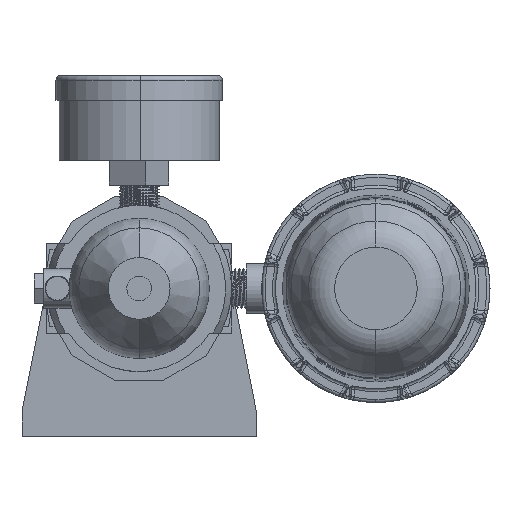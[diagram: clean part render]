
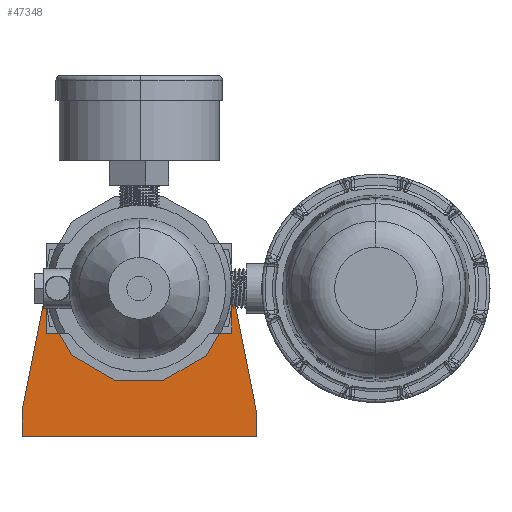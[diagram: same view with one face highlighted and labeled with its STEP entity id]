
A CAD part, front view. The second image highlights one B-rep face of the part: STEP entity #47348.
In plain terms, the highlighted planar face has unit normal (0, -1, 0).
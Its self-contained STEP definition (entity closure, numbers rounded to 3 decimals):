
#538 = DIRECTION ( 'NONE',  ( 0., 1., 0. ) ) ;
#759 = LINE ( 'NONE', #4408, #44675 ) ;
#1143 = EDGE_CURVE ( 'NONE', #7874, #2587, #49974, .T. ) ;
#1315 = ORIENTED_EDGE ( 'NONE', *, *, #35735, .F. ) ;
#2587 = VERTEX_POINT ( 'NONE', #17000 ) ;
#4023 = VECTOR ( 'NONE', #15698, 1000. ) ;
#4375 = CARTESIAN_POINT ( 'NONE',  ( -38., 0., -40. ) ) ;
#4408 = CARTESIAN_POINT ( 'NONE',  ( 38., 0., -48. ) ) ;
#5560 = AXIS2_PLACEMENT_3D ( 'NONE', #50813, #26410, #26059 ) ;
#5564 = CARTESIAN_POINT ( 'NONE',  ( 0., 0., 0. ) ) ;
#6962 = VECTOR ( 'NONE', #31876, 1000. ) ;
#7604 = LINE ( 'NONE', #41528, #33005 ) ;
#7734 = CARTESIAN_POINT ( 'NONE',  ( -38., 0., -48. ) ) ;
#7859 = EDGE_CURVE ( 'NONE', #2587, #7874, #30676, .T. ) ;
#7874 = VERTEX_POINT ( 'NONE', #42120 ) ;
#8087 = VERTEX_POINT ( 'NONE', #41889 ) ;
#8159 = CIRCLE ( 'NONE', #42162, 29.5 ) ;
#8363 = ORIENTED_EDGE ( 'NONE', *, *, #29868, .F. ) ;
#8457 = EDGE_CURVE ( 'NONE', #47805, #20812, #40269, .T. ) ;
#9194 = ORIENTED_EDGE ( 'NONE', *, *, #7859, .T. ) ;
#10584 = FACE_BOUND ( 'NONE', #47278, .T. ) ;
#11718 = AXIS2_PLACEMENT_3D ( 'NONE', #5564, #47178, #14751 ) ;
#12062 = DIRECTION ( 'NONE',  ( 0., 0., -1. ) ) ;
#12957 = DIRECTION ( 'NONE',  ( 0., 0., 1. ) ) ;
#13078 = VERTEX_POINT ( 'NONE', #37005 ) ;
#13630 = CARTESIAN_POINT ( 'NONE',  ( -28.937, 0., 5.734 ) ) ;
#14751 = DIRECTION ( 'NONE',  ( 0., 0., 1. ) ) ;
#15698 = DIRECTION ( 'NONE',  ( -1., 0., 0. ) ) ;
#15699 = ORIENTED_EDGE ( 'NONE', *, *, #38976, .F. ) ;
#16486 = AXIS2_PLACEMENT_3D ( 'NONE', #43720, #35529, #19324 ) ;
#17000 = CARTESIAN_POINT ( 'NONE',  ( 0., 0., 24. ) ) ;
#18356 = EDGE_CURVE ( 'NONE', #38630, #49651, #7604, .T. ) ;
#19324 = DIRECTION ( 'NONE',  ( 0., 0., 1. ) ) ;
#20812 = VERTEX_POINT ( 'NONE', #52274 ) ;
#21121 = ORIENTED_EDGE ( 'NONE', *, *, #1143, .T. ) ;
#22049 = CARTESIAN_POINT ( 'NONE',  ( -38., 0., -48. ) ) ;
#24941 = CARTESIAN_POINT ( 'NONE',  ( 38., 0., -48. ) ) ;
#25778 = PLANE ( 'NONE',  #11718 ) ;
#26059 = DIRECTION ( 'NONE',  ( 0., 0., 1. ) ) ;
#26410 = DIRECTION ( 'NONE',  ( 0., 1., 0. ) ) ;
#27711 = ORIENTED_EDGE ( 'NONE', *, *, #40164, .F. ) ;
#29274 = CARTESIAN_POINT ( 'NONE',  ( 0., 0., 0. ) ) ;
#29868 = EDGE_CURVE ( 'NONE', #49651, #13078, #8159, .T. ) ;
#30056 = EDGE_LOOP ( 'NONE', ( #36701, #15699, #30356, #1315, #27711, #8363 ) ) ;
#30356 = ORIENTED_EDGE ( 'NONE', *, *, #8457, .F. ) ;
#30402 = DIRECTION ( 'NONE',  ( 0., 0., 1. ) ) ;
#30676 = CIRCLE ( 'NONE', #5560, 24. ) ;
#31876 = DIRECTION ( 'NONE',  ( 0.194, 0., -0.981 ) ) ;
#33005 = VECTOR ( 'NONE', #33146, 1000. ) ;
#33146 = DIRECTION ( 'NONE',  ( 0.194, 0., 0.981 ) ) ;
#33713 = VECTOR ( 'NONE', #30402, 1000. ) ;
#35529 = DIRECTION ( 'NONE',  ( 0., 1., 0. ) ) ;
#35735 = EDGE_CURVE ( 'NONE', #8087, #47805, #759, .T. ) ;
#36701 = ORIENTED_EDGE ( 'NONE', *, *, #18356, .F. ) ;
#37005 = CARTESIAN_POINT ( 'NONE',  ( 28.937, 0., 5.734 ) ) ;
#38630 = VERTEX_POINT ( 'NONE', #4375 ) ;
#38976 = EDGE_CURVE ( 'NONE', #20812, #38630, #48422, .T. ) ;
#40164 = EDGE_CURVE ( 'NONE', #13078, #8087, #43864, .T. ) ;
#40269 = LINE ( 'NONE', #7734, #4023 ) ;
#41528 = CARTESIAN_POINT ( 'NONE',  ( -38., 0., -40. ) ) ;
#41889 = CARTESIAN_POINT ( 'NONE',  ( 38., 0., -40. ) ) ;
#42120 = CARTESIAN_POINT ( 'NONE',  ( 0., 0., -24. ) ) ;
#42162 = AXIS2_PLACEMENT_3D ( 'NONE', #29274, #538, #12957 ) ;
#43720 = CARTESIAN_POINT ( 'NONE',  ( 0., 0., 0. ) ) ;
#43864 = LINE ( 'NONE', #48127, #6962 ) ;
#44675 = VECTOR ( 'NONE', #12062, 1000. ) ;
#47178 = DIRECTION ( 'NONE',  ( 0., 1., 0. ) ) ;
#47278 = EDGE_LOOP ( 'NONE', ( #9194, #21121 ) ) ;
#47348 = ADVANCED_FACE ( 'NONE', ( #10584, #49336 ), #25778, .F. ) ;
#47805 = VERTEX_POINT ( 'NONE', #24941 ) ;
#48127 = CARTESIAN_POINT ( 'NONE',  ( 38., 0., -40. ) ) ;
#48422 = LINE ( 'NONE', #22049, #33713 ) ;
#49336 = FACE_OUTER_BOUND ( 'NONE', #30056, .T. ) ;
#49651 = VERTEX_POINT ( 'NONE', #13630 ) ;
#49974 = CIRCLE ( 'NONE', #16486, 24. ) ;
#50813 = CARTESIAN_POINT ( 'NONE',  ( 0., 0., 0. ) ) ;
#52274 = CARTESIAN_POINT ( 'NONE',  ( -38., 0., -48. ) ) ;
